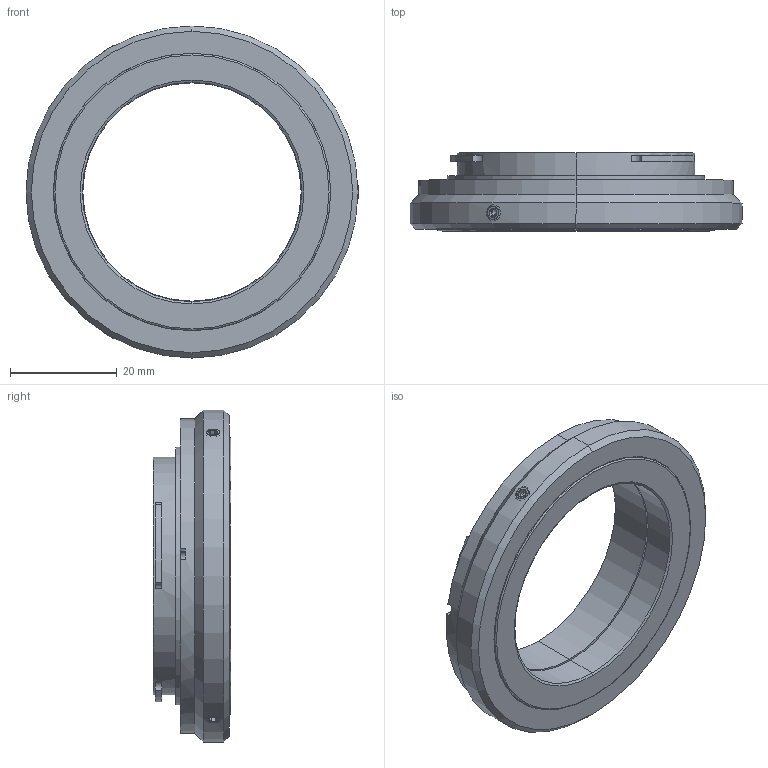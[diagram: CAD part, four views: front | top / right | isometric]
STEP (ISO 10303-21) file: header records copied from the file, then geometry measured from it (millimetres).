
FILE_DESCRIPTION (( 'STEP AP203' ), '1' );
FILE_NAME ('25-60-29-000 OUTLINE.STEP', '2013-01-14T20:41:58', ( '' ), ( '' ), 'SwSTEP 2.0', 'SolidWorks 2011', '' );
FILE_SCHEMA (( 'CONFIG_CONTROL_DESIGN' ));
Length unit declared in the file: millimetre
Products named in the file (1): 25-60-29-000 OUTLINE
Bounding box: 62.28 x 14.62 x 62.28 mm (x, y, z)
Volume: 15683.7 mm3; surface area: 11704.9 mm2
Topology: 5 solids, 5 shells, 169 faces, 365 edges, 209 vertices
Faces by surface type: plane 61, cylinder 49, cone 49, torus 10
Entity records: 4872 total; most frequent: CARTESIAN_POINT 1083, DIRECTION 845, ORIENTED_EDGE 718, EDGE_CURVE 359, AXIS2_PLACEMENT_3D 349, VERTEX_POINT 209, EDGE_LOOP 188, CIRCLE 179
